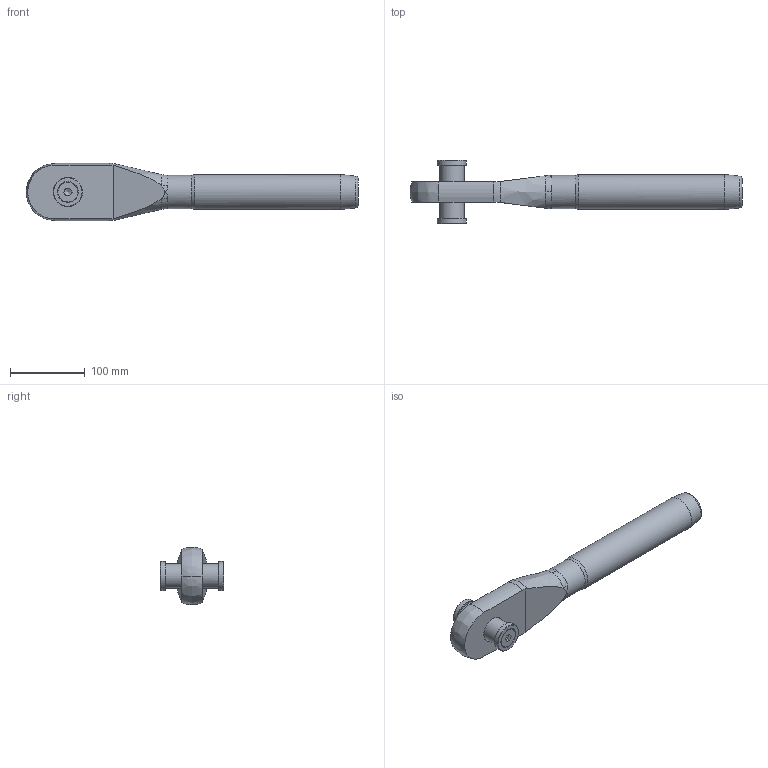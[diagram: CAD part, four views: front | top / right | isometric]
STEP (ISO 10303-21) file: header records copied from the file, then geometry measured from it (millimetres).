
FILE_DESCRIPTION(/* description */ (''),/* implementation_level */ '2;1');
FILE_NAME(/* name */ 'MCC 24_42CrMo4',/* time_stamp */ '2023-05-23T15:41:02+02:00',/* author */ (''),/* organization */ (''),/* preprocessor_version */ 'ST-DEVELOPER v16.5',/* originating_system */ 'Rhino 7.22',/* authorisation */ '');
FILE_SCHEMA (('CONFIG_CONTROL_DESIGN'));
Length unit declared in the file: millimetre
Products named in the file (1): Document
Bounding box: 444.5 x 84.59 x 76.97 mm (x, y, z)
Volume: 839926.8 mm3; surface area: 96356.7 mm2
Topology: 6 solids, 6 shells, 74 faces, 202 edges, 134 vertices
Faces by surface type: bspline 31, plane 27, cylinder 16
Full cylindrical faces by diameter (mm): 11.835 x2, 14 x2, 14.5 x2, 26.52 x2, 33 x1, 35 x1, 39 x2, 44.5 x1, 46.8 x1
Entity records: 3241 total; most frequent: CARTESIAN_POINT 1990, ORIENTED_EDGE 384, EDGE_CURVE 192, VERTEX_POINT 134, EDGE_LOOP 84, ADVANCED_FACE 74, FACE_OUTER_BOUND 74, B_SPLINE_CURVE_WITH_KNOTS 64
